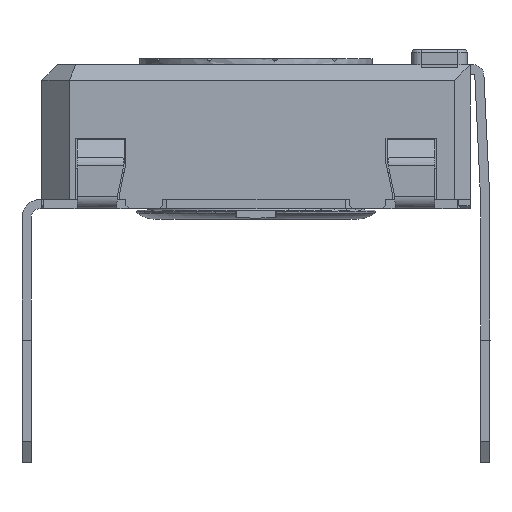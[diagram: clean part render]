
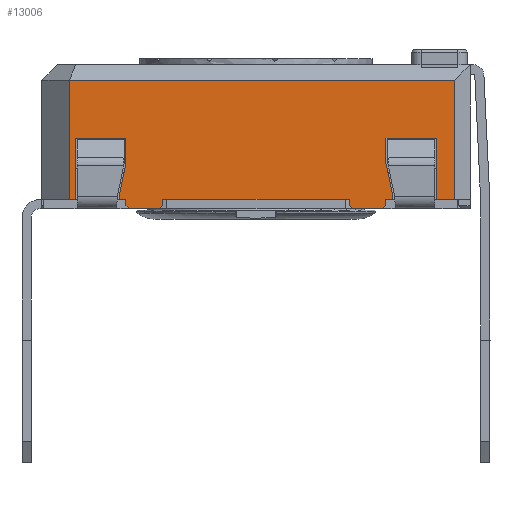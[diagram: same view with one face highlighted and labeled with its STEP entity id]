
A CAD part, left-side view. The second image highlights one B-rep face of the part: STEP entity #13006.
In plain terms, the highlighted planar face has unit normal (-1, 0, 0).
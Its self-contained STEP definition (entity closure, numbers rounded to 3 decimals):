
#1013=FACE_OUTER_BOUND('',#1705,.T.);
#1705=EDGE_LOOP('',(#10367,#10368,#10369,#10370,#10371,#10372,#10373,#10374,
#10375,#10376,#10377,#10378,#10379,#10380,#10381,#10382,#10383,#10384,#10385,
#10386,#10387,#10388,#10389,#10390,#10391,#10392,#10393,#10394));
#2711=LINE('',#19844,#4211);
#2717=LINE('',#19856,#4217);
#2720=LINE('',#19863,#4220);
#2725=LINE('',#19872,#4225);
#2745=LINE('',#19913,#4245);
#2759=LINE('',#19939,#4259);
#2763=LINE('',#19946,#4263);
#2778=LINE('',#19975,#4278);
#2781=LINE('',#19981,#4281);
#2786=LINE('',#19991,#4286);
#2789=LINE('',#19997,#4289);
#2792=LINE('',#20003,#4292);
#2810=LINE('',#20038,#4310);
#2822=LINE('',#20060,#4322);
#2825=LINE('',#20066,#4325);
#2862=LINE('',#20200,#4362);
#2870=LINE('',#20214,#4370);
#2879=LINE('',#20232,#4379);
#2884=LINE('',#20242,#4384);
#2886=LINE('',#20245,#4386);
#3010=LINE('',#20553,#4510);
#3012=LINE('',#20558,#4512);
#3015=LINE('',#20562,#4515);
#3017=LINE('',#20566,#4517);
#3020=LINE('',#20574,#4520);
#3021=LINE('',#20576,#4521);
#3022=LINE('',#20577,#4522);
#3023=LINE('',#20578,#4523);
#4211=VECTOR('',#15951,10.);
#4217=VECTOR('',#15959,10.);
#4220=VECTOR('',#15964,10.);
#4225=VECTOR('',#15971,10.);
#4245=VECTOR('',#16005,10.);
#4259=VECTOR('',#16019,10.);
#4263=VECTOR('',#16023,10.);
#4278=VECTOR('',#16050,10.);
#4281=VECTOR('',#16055,10.);
#4286=VECTOR('',#16062,10.);
#4289=VECTOR('',#16067,10.);
#4292=VECTOR('',#16072,10.);
#4310=VECTOR('',#16092,10.);
#4322=VECTOR('',#16106,10.);
#4325=VECTOR('',#16111,10.);
#4362=VECTOR('',#16192,10.);
#4370=VECTOR('',#16202,10.);
#4379=VECTOR('',#16213,10.);
#4384=VECTOR('',#16220,10.);
#4386=VECTOR('',#16224,10.);
#4510=VECTOR('',#16516,10.);
#4512=VECTOR('',#16520,10.);
#4515=VECTOR('',#16525,10.);
#4517=VECTOR('',#16531,10.);
#4520=VECTOR('',#16542,10.);
#4521=VECTOR('',#16543,10.);
#4522=VECTOR('',#16544,10.);
#4523=VECTOR('',#16545,10.);
#5609=VERTEX_POINT('',#19841);
#5610=VERTEX_POINT('',#19843);
#5614=VERTEX_POINT('',#19853);
#5616=VERTEX_POINT('',#19859);
#5618=VERTEX_POINT('',#19862);
#5621=VERTEX_POINT('',#19870);
#5646=VERTEX_POINT('',#19936);
#5647=VERTEX_POINT('',#19938);
#5649=VERTEX_POINT('',#19943);
#5650=VERTEX_POINT('',#19945);
#5657=VERTEX_POINT('',#19972);
#5659=VERTEX_POINT('',#19978);
#5663=VERTEX_POINT('',#19988);
#5665=VERTEX_POINT('',#19994);
#5668=VERTEX_POINT('',#20001);
#5684=VERTEX_POINT('',#20036);
#5693=VERTEX_POINT('',#20058);
#5695=VERTEX_POINT('',#20064);
#5722=VERTEX_POINT('',#20198);
#5727=VERTEX_POINT('',#20212);
#5734=VERTEX_POINT('',#20229);
#5738=VERTEX_POINT('',#20239);
#5812=VERTEX_POINT('',#20550);
#5813=VERTEX_POINT('',#20552);
#5814=VERTEX_POINT('',#20556);
#5815=VERTEX_POINT('',#20557);
#5816=VERTEX_POINT('',#20573);
#5817=VERTEX_POINT('',#20575);
#7115=EDGE_CURVE('',#5610,#5609,#2711,.T.);
#7121=EDGE_CURVE('',#5609,#5614,#2717,.T.);
#7124=EDGE_CURVE('',#5618,#5616,#2720,.T.);
#7129=EDGE_CURVE('',#5621,#5616,#2725,.T.);
#7149=EDGE_CURVE('',#5614,#5618,#2745,.T.);
#7163=EDGE_CURVE('',#5647,#5646,#2759,.T.);
#7167=EDGE_CURVE('',#5650,#5649,#2763,.T.);
#7183=EDGE_CURVE('',#5646,#5657,#2778,.T.);
#7186=EDGE_CURVE('',#5657,#5659,#2781,.T.);
#7191=EDGE_CURVE('',#5659,#5663,#2786,.T.);
#7194=EDGE_CURVE('',#5663,#5665,#2789,.T.);
#7197=EDGE_CURVE('',#5665,#5668,#2792,.T.);
#7215=EDGE_CURVE('',#5668,#5684,#2810,.T.);
#7227=EDGE_CURVE('',#5693,#5684,#2822,.T.);
#7230=EDGE_CURVE('',#5695,#5693,#2825,.T.);
#7279=EDGE_CURVE('',#5722,#5695,#2862,.T.);
#7287=EDGE_CURVE('',#5722,#5727,#2870,.T.);
#7296=EDGE_CURVE('',#5727,#5734,#2879,.T.);
#7301=EDGE_CURVE('',#5734,#5738,#2884,.T.);
#7303=EDGE_CURVE('',#5738,#5610,#2886,.T.);
#7443=EDGE_CURVE('',#5812,#5813,#3010,.T.);
#7445=EDGE_CURVE('',#5814,#5815,#3012,.T.);
#7448=EDGE_CURVE('',#5647,#5812,#3015,.T.);
#7450=EDGE_CURVE('',#5649,#5815,#3017,.T.);
#7453=EDGE_CURVE('',#5621,#5816,#3020,.T.);
#7454=EDGE_CURVE('',#5817,#5816,#3021,.T.);
#7455=EDGE_CURVE('',#5650,#5817,#3022,.T.);
#7456=EDGE_CURVE('',#5814,#5813,#3023,.T.);
#10367=ORIENTED_EDGE('',*,*,#7121,.T.);
#10368=ORIENTED_EDGE('',*,*,#7149,.T.);
#10369=ORIENTED_EDGE('',*,*,#7124,.T.);
#10370=ORIENTED_EDGE('',*,*,#7129,.F.);
#10371=ORIENTED_EDGE('',*,*,#7453,.T.);
#10372=ORIENTED_EDGE('',*,*,#7454,.F.);
#10373=ORIENTED_EDGE('',*,*,#7455,.F.);
#10374=ORIENTED_EDGE('',*,*,#7167,.T.);
#10375=ORIENTED_EDGE('',*,*,#7450,.T.);
#10376=ORIENTED_EDGE('',*,*,#7445,.F.);
#10377=ORIENTED_EDGE('',*,*,#7456,.T.);
#10378=ORIENTED_EDGE('',*,*,#7443,.F.);
#10379=ORIENTED_EDGE('',*,*,#7448,.F.);
#10380=ORIENTED_EDGE('',*,*,#7163,.T.);
#10381=ORIENTED_EDGE('',*,*,#7183,.T.);
#10382=ORIENTED_EDGE('',*,*,#7186,.T.);
#10383=ORIENTED_EDGE('',*,*,#7191,.T.);
#10384=ORIENTED_EDGE('',*,*,#7194,.T.);
#10385=ORIENTED_EDGE('',*,*,#7197,.T.);
#10386=ORIENTED_EDGE('',*,*,#7215,.T.);
#10387=ORIENTED_EDGE('',*,*,#7227,.F.);
#10388=ORIENTED_EDGE('',*,*,#7230,.F.);
#10389=ORIENTED_EDGE('',*,*,#7279,.F.);
#10390=ORIENTED_EDGE('',*,*,#7287,.T.);
#10391=ORIENTED_EDGE('',*,*,#7296,.T.);
#10392=ORIENTED_EDGE('',*,*,#7301,.T.);
#10393=ORIENTED_EDGE('',*,*,#7303,.T.);
#10394=ORIENTED_EDGE('',*,*,#7115,.T.);
#12181=PLANE('',#13886);
#13006=ADVANCED_FACE('',(#1013),#12181,.T.);
#13886=AXIS2_PLACEMENT_3D('',#20572,#16540,#16541);
#15951=DIRECTION('',(0.,0.208,-0.978));
#15959=DIRECTION('',(0.,0.,-1.));
#15964=DIRECTION('',(0.,0.,-1.));
#15971=DIRECTION('',(0.,0.707,0.707));
#16005=DIRECTION('',(0.,-1.,0.));
#16019=DIRECTION('',(0.,-1.,0.));
#16023=DIRECTION('',(0.,-1.,0.));
#16050=DIRECTION('',(0.,0.,1.));
#16055=DIRECTION('',(0.,0.208,0.978));
#16062=DIRECTION('',(0.,0.,1.));
#16067=DIRECTION('',(0.,-1.,0.));
#16072=DIRECTION('',(0.,0.,-1.));
#16092=DIRECTION('',(0.,-1.,0.));
#16106=DIRECTION('',(0.,0.,-1.));
#16111=DIRECTION('',(0.,-1.,0.));
#16192=DIRECTION('',(0.,0.,1.));
#16202=DIRECTION('',(0.,-1.,0.));
#16213=DIRECTION('',(0.,0.,1.));
#16220=DIRECTION('',(0.,-1.,0.));
#16224=DIRECTION('',(0.,0.,-1.));
#16516=DIRECTION('',(0.,0.707,-0.707));
#16520=DIRECTION('',(0.,0.707,0.707));
#16525=DIRECTION('',(0.,0.,-1.));
#16531=DIRECTION('',(0.,0.,-1.));
#16540=DIRECTION('center_axis',(-1.,0.,0.));
#16541=DIRECTION('ref_axis',(0.,0.,1.));
#16542=DIRECTION('',(0.,-1.,0.));
#16543=DIRECTION('',(0.,0.707,-0.707));
#16544=DIRECTION('',(0.,0.,-1.));
#16545=DIRECTION('',(0.,-1.,0.));
#19841=CARTESIAN_POINT('',(-14.467,1.552,0.235));
#19843=CARTESIAN_POINT('',(-14.467,1.352,1.176));
#19844=CARTESIAN_POINT('',(-14.467,1.228,1.757));
#19853=CARTESIAN_POINT('',(-14.467,1.552,0.));
#19856=CARTESIAN_POINT('',(-14.467,1.552,0.));
#19859=CARTESIAN_POINT('',(-14.467,1.352,-0.2));
#19862=CARTESIAN_POINT('',(-14.467,1.352,0.));
#19863=CARTESIAN_POINT('',(-14.467,1.352,0.));
#19870=CARTESIAN_POINT('',(-14.467,1.252,-0.3));
#19872=CARTESIAN_POINT('',(-14.467,-1.436,-2.988));
#19913=CARTESIAN_POINT('',(-14.467,4.102,0.));
#19936=CARTESIAN_POINT('',(-14.467,-7.348,0.));
#19938=CARTESIAN_POINT('',(-14.467,-7.148,0.));
#19939=CARTESIAN_POINT('',(-14.467,4.102,0.));
#19943=CARTESIAN_POINT('',(-14.467,-5.948,0.));
#19945=CARTESIAN_POINT('',(-14.467,0.152,0.));
#19946=CARTESIAN_POINT('',(-14.467,4.102,0.));
#19972=CARTESIAN_POINT('',(-14.467,-7.348,0.235));
#19975=CARTESIAN_POINT('',(-14.467,-7.348,0.118));
#19978=CARTESIAN_POINT('',(-14.467,-7.148,1.176));
#19981=CARTESIAN_POINT('',(-14.467,-7.453,-0.254));
#19988=CARTESIAN_POINT('',(-14.467,-7.148,2.));
#19991=CARTESIAN_POINT('',(-14.467,-7.148,0.588));
#19994=CARTESIAN_POINT('',(-14.467,-8.798,2.));
#19997=CARTESIAN_POINT('',(-14.467,-8.523,2.));
#20001=CARTESIAN_POINT('',(-14.467,-8.798,0.));
#20003=CARTESIAN_POINT('',(-14.467,-8.798,0.));
#20036=CARTESIAN_POINT('',(-14.467,-9.398,0.));
#20038=CARTESIAN_POINT('',(-14.467,-9.595,0.));
#20058=CARTESIAN_POINT('',(-14.467,-9.398,3.9));
#20060=CARTESIAN_POINT('',(-14.467,-9.398,0.));
#20064=CARTESIAN_POINT('',(-14.467,3.202,3.9));
#20066=CARTESIAN_POINT('',(-14.467,-6.398,3.9));
#20198=CARTESIAN_POINT('',(-14.467,3.202,0.));
#20200=CARTESIAN_POINT('',(-14.467,3.202,0.));
#20212=CARTESIAN_POINT('',(-14.467,3.002,0.));
#20214=CARTESIAN_POINT('',(-14.467,-2.985,0.));
#20229=CARTESIAN_POINT('',(-14.467,3.002,2.));
#20232=CARTESIAN_POINT('',(-14.467,3.002,0.));
#20239=CARTESIAN_POINT('',(-14.467,1.352,2.));
#20242=CARTESIAN_POINT('',(-14.467,-3.448,2.));
#20245=CARTESIAN_POINT('',(-14.467,1.352,1.));
#20550=CARTESIAN_POINT('',(-14.467,-7.148,-0.2));
#20552=CARTESIAN_POINT('',(-14.467,-7.048,-0.3));
#20553=CARTESIAN_POINT('',(-14.467,-7.861,0.513));
#20556=CARTESIAN_POINT('',(-14.467,-6.048,-0.3));
#20557=CARTESIAN_POINT('',(-14.467,-5.948,-0.2));
#20558=CARTESIAN_POINT('',(-14.467,-6.911,-1.163));
#20562=CARTESIAN_POINT('',(-14.467,-7.148,0.));
#20566=CARTESIAN_POINT('',(-14.467,-5.948,0.));
#20572=CARTESIAN_POINT('Origin',(-14.467,-9.898,0.));
#20573=CARTESIAN_POINT('',(-14.467,0.252,-0.3));
#20574=CARTESIAN_POINT('',(-14.467,0.152,-0.3));
#20575=CARTESIAN_POINT('',(-14.467,0.152,-0.2));
#20576=CARTESIAN_POINT('',(-14.467,-2.386,2.338));
#20577=CARTESIAN_POINT('',(-14.467,0.152,0.));
#20578=CARTESIAN_POINT('',(-14.467,-7.148,-0.3));
